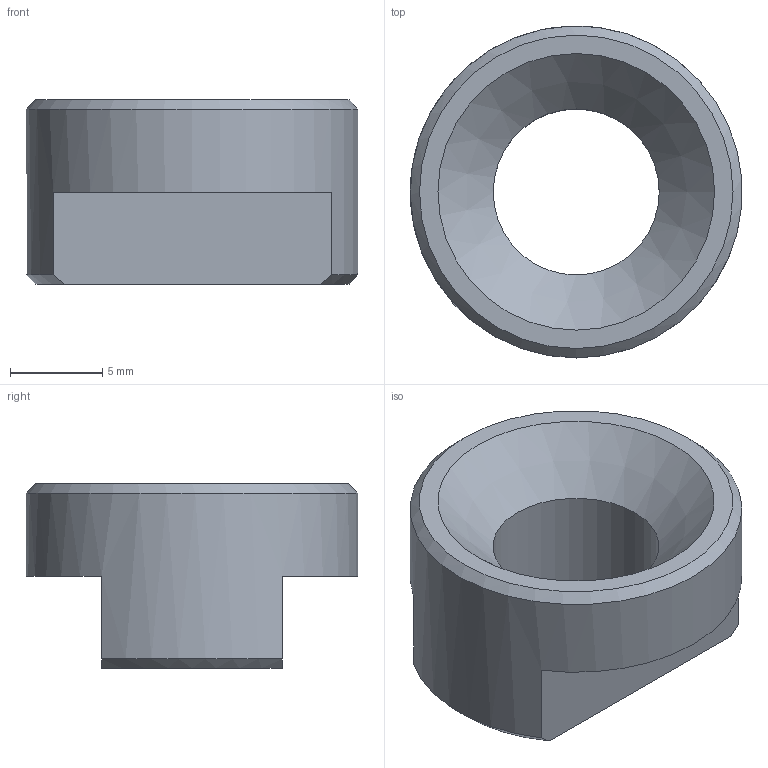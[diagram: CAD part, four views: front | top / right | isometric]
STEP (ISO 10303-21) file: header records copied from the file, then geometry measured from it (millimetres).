
FILE_DESCRIPTION(/* description */ (''),/* implementation_level */ '2;1');
FILE_NAME(/* name */ 'WHEELS-INSERT.29.stp',/* time_stamp */ '2018-05-25T14:31:34+02:00',/* author */ (''),/* organization */ (''),/* preprocessor_version */ 'ST-DEVELOPER v16.7',/* originating_system */ 'SIEMENS PLM Software NX 12.0',/* authorisation */ '');
FILE_SCHEMA (('AP203_CONFIGURATION_CONTROLLED_3D_DESIGN_OF_MECHANICAL_PARTS_AND_ASSEMBLIES_MIM_LF { 1 0 10303 403 2 1 2}'));
Length unit declared in the file: millimetre
Products named in the file (1): turc66A81BAD9zid
Bounding box: 17.97 x 18 x 10 mm (x, y, z)
Volume: 1307.4 mm3; surface area: 1140.3 mm2
Topology: 1 solids, 1 shells, 12 faces, 29 edges, 19 vertices
Faces by surface type: plane 6, cone 4, cylinder 2
Full cylindrical faces by diameter (mm): 9 x1, 18 x1
Entity records: 428 total; most frequent: CARTESIAN_POINT 65, DIRECTION 56, ORIENTED_EDGE 46, AXIS2_PLACEMENT_3D 24, EDGE_CURVE 23, EDGE_LOOP 18, VERTEX_POINT 17, FACE_BOUND 12
